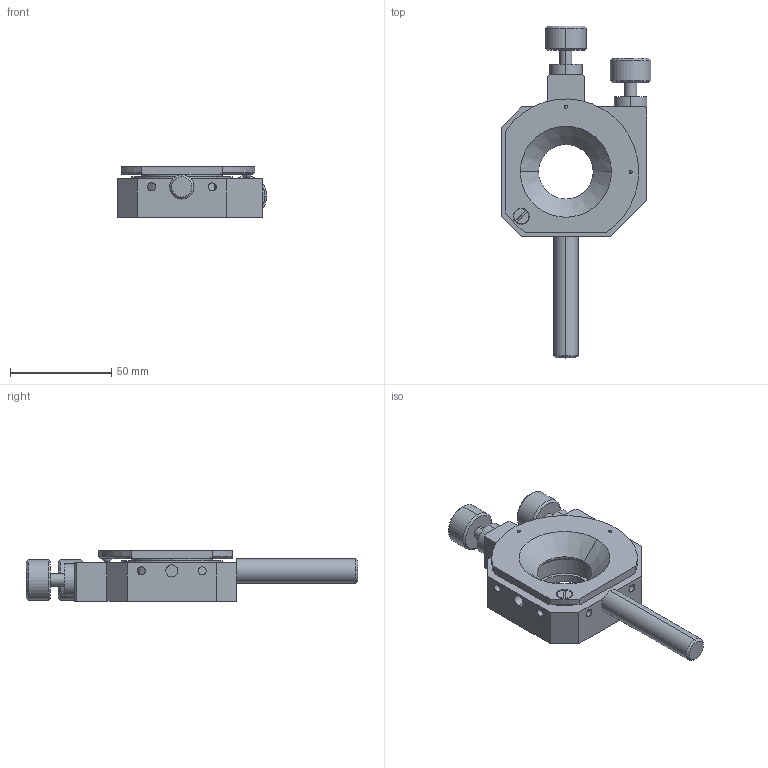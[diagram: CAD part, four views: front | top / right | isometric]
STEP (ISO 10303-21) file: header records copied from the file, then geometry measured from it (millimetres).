
FILE_DESCRIPTION (( 'STEP AP203' ), '1' );
FILE_NAME ('MHJ-30.STEP', '2020-06-09T05:55:49', ( '' ), ( '' ), 'SwSTEP 2.0', 'SolidWorks 2016', '' );
FILE_SCHEMA (( 'CONFIG_CONTROL_DESIGN' ));
Length unit declared in the file: millimetre
Products named in the file (4): MHJ-30; MHJ-30-3; MHJ-30-2; MHJ-30-1
Assembly tree (3 placements, depth 2):
  MHJ-30
    MHJ-30-1
    MHJ-30-2
    MHJ-30-3
Bounding box: 74 x 164 x 25 mm (x, y, z)
Volume: 89535 mm3; surface area: 36457.8 mm2
Topology: 5 solids, 5 shells, 149 faces, 365 edges, 233 vertices
Faces by surface type: cylinder 61, plane 53, cone 29, sphere 6
Entity records: 5263 total; most frequent: CARTESIAN_POINT 1246, DIRECTION 803, ORIENTED_EDGE 714, EDGE_CURVE 357, AXIS2_PLACEMENT_3D 320, VERTEX_POINT 231, EDGE_LOOP 182, CIRCLE 165
